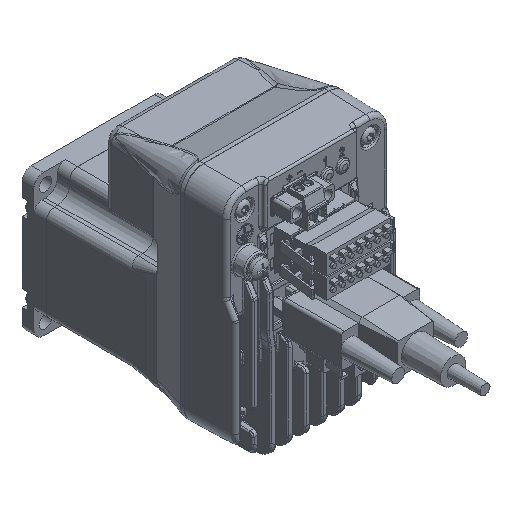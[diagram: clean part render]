
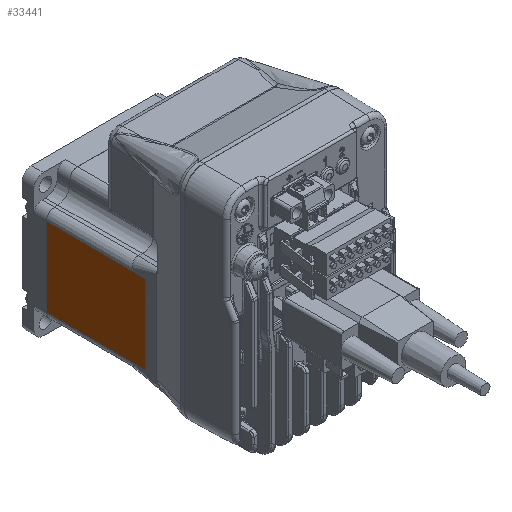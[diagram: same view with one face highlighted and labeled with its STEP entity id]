
A CAD part, isometric view. The second image highlights one B-rep face of the part: STEP entity #33441.
In plain terms, the highlighted planar face has unit normal (-1, 0.003, 0).
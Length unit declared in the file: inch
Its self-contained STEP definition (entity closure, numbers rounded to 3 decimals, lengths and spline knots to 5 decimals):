
#32567=CARTESIAN_POINT('',(-1.11043,2.97855,-0.61853));
#32568=VERTEX_POINT('',#32567);
#32576=CARTESIAN_POINT('',(-1.11043,2.97855,0.61853));
#32577=VERTEX_POINT('',#32576);
#32578=CARTESIAN_POINT('',(-1.11043,2.97855,-0.00039));
#32579=DIRECTION('',(0.,0.,1.));
#32580=VECTOR('',#32579,1.);
#32581=LINE('',#32578,#32580);
#32582=EDGE_CURVE('',#32568,#32577,#32581,.T.);
#33387=CARTESIAN_POINT('',(-1.1148,1.41715,-0.61853));
#33388=VERTEX_POINT('',#33387);
#33396=CARTESIAN_POINT('',(-1.11057,2.92855,-0.61853));
#33397=DIRECTION('',(-0.003,-1.,0.));
#33398=VECTOR('',#33397,1.);
#33399=LINE('',#33396,#33398);
#33400=EDGE_CURVE('',#32568,#33388,#33399,.T.);
#33418=ORIENTED_EDGE('',*,*,#33400,.T.);
#33419=CARTESIAN_POINT('',(-1.1148,1.41715,0.61853));
#33420=VERTEX_POINT('',#33419);
#33421=CARTESIAN_POINT('',(-1.1148,1.41715,-0.5836));
#33422=DIRECTION('',(0.,0.,-1.));
#33423=VECTOR('',#33422,1.);
#33424=LINE('',#33421,#33423);
#33425=EDGE_CURVE('',#33420,#33388,#33424,.T.);
#33426=ORIENTED_EDGE('',*,*,#33425,.F.);
#33427=CARTESIAN_POINT('',(-1.11057,2.92855,0.61853));
#33428=DIRECTION('',(-0.003,-1.,0.));
#33429=VECTOR('',#33428,1.);
#33430=LINE('',#33427,#33429);
#33431=EDGE_CURVE('',#32577,#33420,#33430,.T.);
#33432=ORIENTED_EDGE('',*,*,#33431,.F.);
#33433=ORIENTED_EDGE('',*,*,#32582,.F.);
#33434=EDGE_LOOP('',(#33418,#33426,#33432,#33433));
#33435=FACE_OUTER_BOUND('',#33434,.T.);
#33436=CARTESIAN_POINT('',(-1.11057,2.92855,-0.61853));
#33437=DIRECTION('',(-1.,0.003,0.));
#33438=DIRECTION('',(0.,0.,-1.));
#33439=AXIS2_PLACEMENT_3D('',#33436,#33437,#33438);
#33440=PLANE('',#33439);
#33441=ADVANCED_FACE('',(#33435),#33440,.T.);
